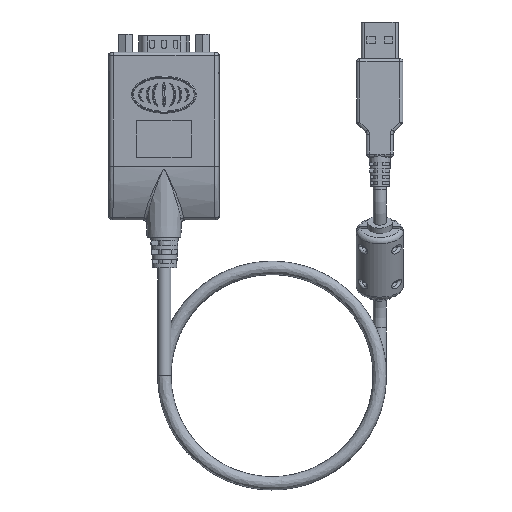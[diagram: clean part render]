
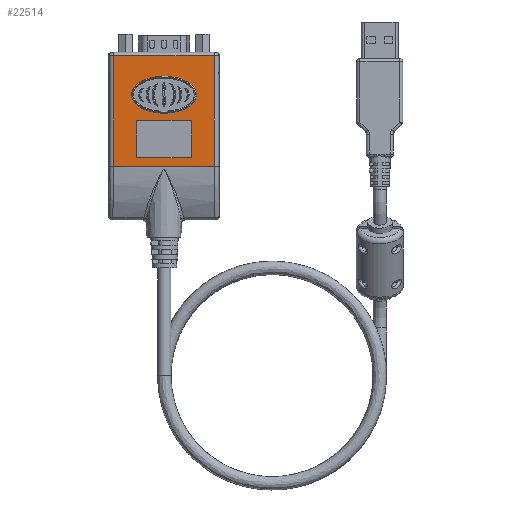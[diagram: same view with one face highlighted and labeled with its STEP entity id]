
A CAD part, front view. The second image highlights one B-rep face of the part: STEP entity #22514.
In plain terms, the highlighted planar face has unit normal (0, -0.999, -0.043).
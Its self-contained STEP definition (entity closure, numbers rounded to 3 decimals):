
#419=FACE_BOUND('',#4053,.T.);
#420=FACE_BOUND('',#4054,.T.);
#575=ELLIPSE('',#24614,10.5,6.);
#1153=PLANE('',#24616);
#2637=FACE_OUTER_BOUND('',#4052,.T.);
#4052=EDGE_LOOP('',(#20546,#20547,#20548,#20549));
#4053=EDGE_LOOP('',(#20550,#20551,#20552,#20553));
#4054=EDGE_LOOP('',(#20554));
#6951=LINE('',#51032,#8519);
#6955=LINE('',#51040,#8523);
#6958=LINE('',#51046,#8526);
#6961=LINE('',#51051,#8529);
#7054=LINE('',#54154,#8622);
#7055=LINE('',#54156,#8623);
#7056=LINE('',#54158,#8624);
#7057=LINE('',#54159,#8625);
#8519=VECTOR('',#29825,10.);
#8523=VECTOR('',#29831,10.);
#8526=VECTOR('',#29836,10.);
#8529=VECTOR('',#29841,10.);
#8622=VECTOR('',#30240,10.);
#8623=VECTOR('',#30241,10.);
#8624=VECTOR('',#30242,10.);
#8625=VECTOR('',#30243,10.);
#10606=VERTEX_POINT('',#51030);
#10607=VERTEX_POINT('',#51031);
#10610=VERTEX_POINT('',#51039);
#10612=VERTEX_POINT('',#51045);
#10781=VERTEX_POINT('',#53520);
#10790=VERTEX_POINT('',#54152);
#10791=VERTEX_POINT('',#54153);
#10792=VERTEX_POINT('',#54155);
#10793=VERTEX_POINT('',#54157);
#13759=EDGE_CURVE('',#10606,#10607,#6951,.T.);
#13763=EDGE_CURVE('',#10610,#10606,#6955,.T.);
#13766=EDGE_CURVE('',#10612,#10610,#6958,.T.);
#13769=EDGE_CURVE('',#10607,#10612,#6961,.T.);
#14049=EDGE_CURVE('',#10781,#10781,#575,.T.);
#14072=EDGE_CURVE('',#10790,#10791,#7054,.T.);
#14073=EDGE_CURVE('',#10792,#10790,#7055,.T.);
#14074=EDGE_CURVE('',#10793,#10792,#7056,.T.);
#14075=EDGE_CURVE('',#10791,#10793,#7057,.T.);
#20546=ORIENTED_EDGE('',*,*,#14072,.F.);
#20547=ORIENTED_EDGE('',*,*,#14073,.F.);
#20548=ORIENTED_EDGE('',*,*,#14074,.F.);
#20549=ORIENTED_EDGE('',*,*,#14075,.F.);
#20550=ORIENTED_EDGE('',*,*,#13759,.T.);
#20551=ORIENTED_EDGE('',*,*,#13769,.T.);
#20552=ORIENTED_EDGE('',*,*,#13766,.T.);
#20553=ORIENTED_EDGE('',*,*,#13763,.T.);
#20554=ORIENTED_EDGE('',*,*,#14049,.T.);
#22514=ADVANCED_FACE('',(#2637,#419,#420),#1153,.F.);
#24614=AXIS2_PLACEMENT_3D('',#53522,#30234,#30235);
#24616=AXIS2_PLACEMENT_3D('',#54151,#30238,#30239);
#29825=DIRECTION('',(0.,0.043,-0.999));
#29831=DIRECTION('',(1.,0.,0.));
#29836=DIRECTION('',(0.,-0.043,0.999));
#29841=DIRECTION('',(-1.,0.,0.));
#30234=DIRECTION('center_axis',(0.,0.999,
0.043));
#30235=DIRECTION('ref_axis',(-1.,0.,0.));
#30238=DIRECTION('center_axis',(0.,0.999,
0.043));
#30239=DIRECTION('ref_axis',(0.,0.043,-0.999));
#30240=DIRECTION('',(1.,0.,0.));
#30241=DIRECTION('',(0.002,-0.043,0.999));
#30242=DIRECTION('',(-1.,0.,0.));
#30243=DIRECTION('',(0.002,0.043,-0.999));
#51030=CARTESIAN_POINT('',(8.875,-7.141,-22.179));
#51031=CARTESIAN_POINT('',(8.875,-6.622,-34.168));
#51032=CARTESIAN_POINT('',(8.875,-7.62,-11.09));
#51039=CARTESIAN_POINT('',(-8.875,-7.141,-22.179));
#51040=CARTESIAN_POINT('',(-4.438,-7.141,-22.179));
#51045=CARTESIAN_POINT('',(-8.875,-6.622,-34.168));
#51046=CARTESIAN_POINT('',(-8.875,-7.361,-17.084));
#51051=CARTESIAN_POINT('',(4.437,-6.622,-34.168));
#53520=CARTESIAN_POINT('',(10.5,-7.506,-13.737));
#53522=CARTESIAN_POINT('Origin',(0.,-7.506,
-13.737));
#54151=CARTESIAN_POINT('Origin',(0.,-8.1,0.));
#54152=CARTESIAN_POINT('',(-16.367,-8.055,-1.043));
#54153=CARTESIAN_POINT('',(16.367,-8.055,-1.043));
#54154=CARTESIAN_POINT('',(0.,-8.055,-1.043));
#54155=CARTESIAN_POINT('',(-16.421,-6.5,-37.));
#54156=CARTESIAN_POINT('',(-16.365,-8.093,-0.164));
#54157=CARTESIAN_POINT('',(16.421,-6.5,-37.));
#54158=CARTESIAN_POINT('',(0.,-6.5,-37.));
#54159=CARTESIAN_POINT('',(16.365,-8.1,0.011));
